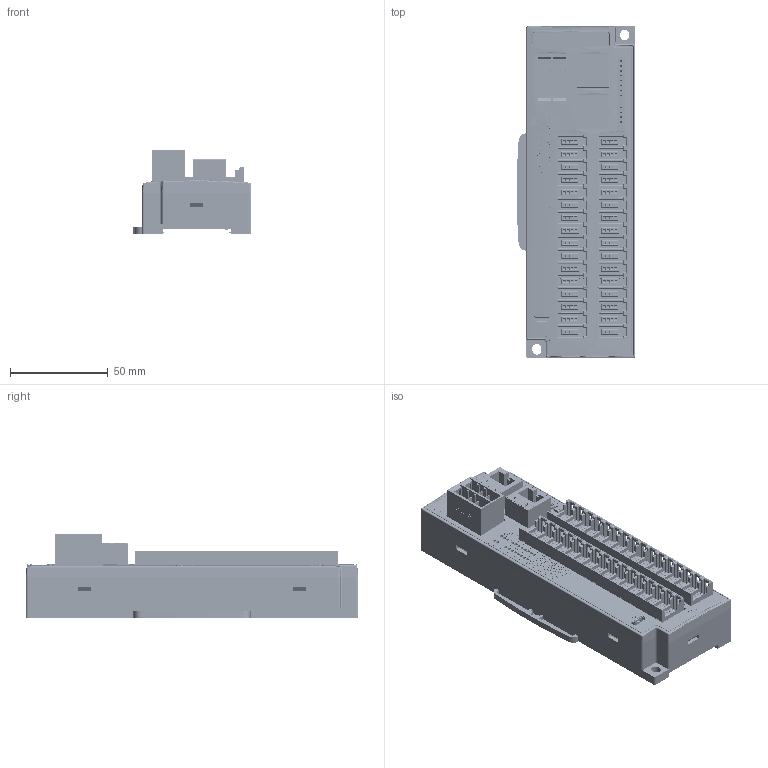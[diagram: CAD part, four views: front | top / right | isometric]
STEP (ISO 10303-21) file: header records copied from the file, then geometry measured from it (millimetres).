
FILE_DESCRIPTION((''),'2;1');
FILE_NAME('CTEP0W','2026-05-11T16:31:18',('gijyu181'),(''),'CREO PARAMETRIC BY PTC INC, 2018050','CREO PARAMETRIC BY PTC INC, 2018050','');
FILE_SCHEMA(('CONFIG_CONTROL_DESIGN','SHAPE_APPEARANCE_LAYERS_GROUPS'));
Products named in the file (1): CTEP0W
Bounding box: 60.87 x 170 x 42.6 mm (x, y, z)
Volume: 275219.1 mm3; surface area: 162556.2 mm2
Topology: 652 solids, 652 shells, 17739 faces, 47072 edges, 31408 vertices
Faces by surface type: plane 12933, extrusion 2577, cylinder 2094, bspline 69, cone 41, torus 21, sphere 4
Entity records: 677385 total; most frequent: CARTESIAN_POINT 154552, ORIENTED_EDGE 94144, DIRECTION 78247, EDGE_CURVE 47072, VECTOR 38709, LINE 36132, VERTEX_POINT 31408, AXIS2_PLACEMENT_3D 19769
